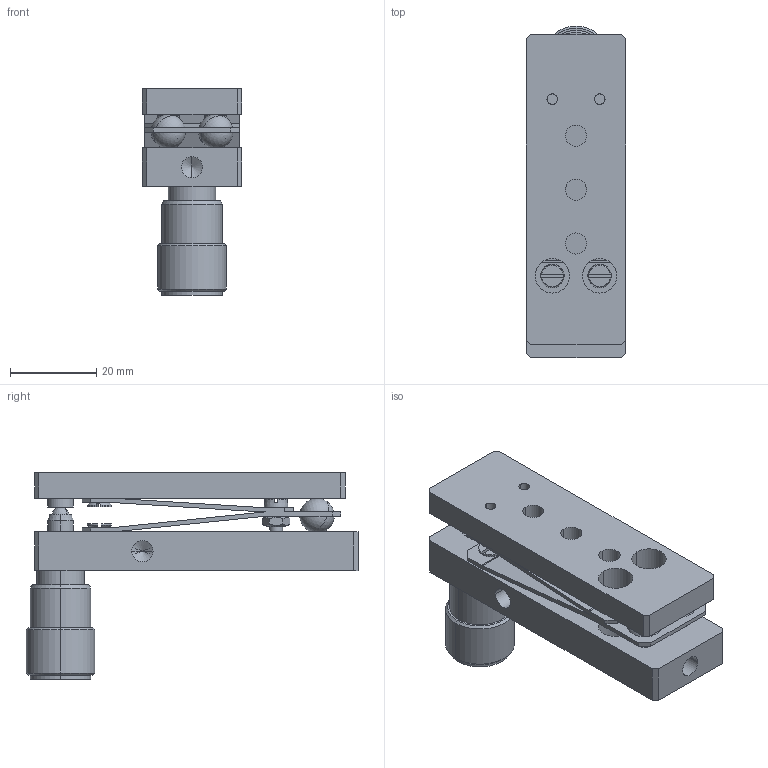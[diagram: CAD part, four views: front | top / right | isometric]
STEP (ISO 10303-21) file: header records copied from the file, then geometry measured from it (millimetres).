
FILE_DESCRIPTION (( 'STEP AP203' ), '1' );
FILE_NAME ('6TS62.STEP', '2008-09-26T15:35:26', ( 'Darius' ), ( '' ), 'SwSTEP 2.0', 'SolidWorks 2003240', '' );
FILE_SCHEMA (( 'CONFIG_CONTROL_DESIGN' ));
Length unit declared in the file: millimetre
Products named in the file (1): 6TS62
Bounding box: 23 x 77 x 48 mm (x, y, z)
Volume: 29786.6 mm3; surface area: 18076.5 mm2
Topology: 1 solids, 1 shells, 581 faces, 1529 edges, 999 vertices
Faces by surface type: plane 240, bspline 180, cylinder 94, cone 58, torus 5, sphere 4
Entity records: 35066 total; most frequent: CARTESIAN_POINT 21793, ORIENTED_EDGE 3022, DIRECTION 2173, EDGE_CURVE 1511, VERTEX_POINT 995, LINE 807, VECTOR 807, AXIS2_PLACEMENT_3D 683
